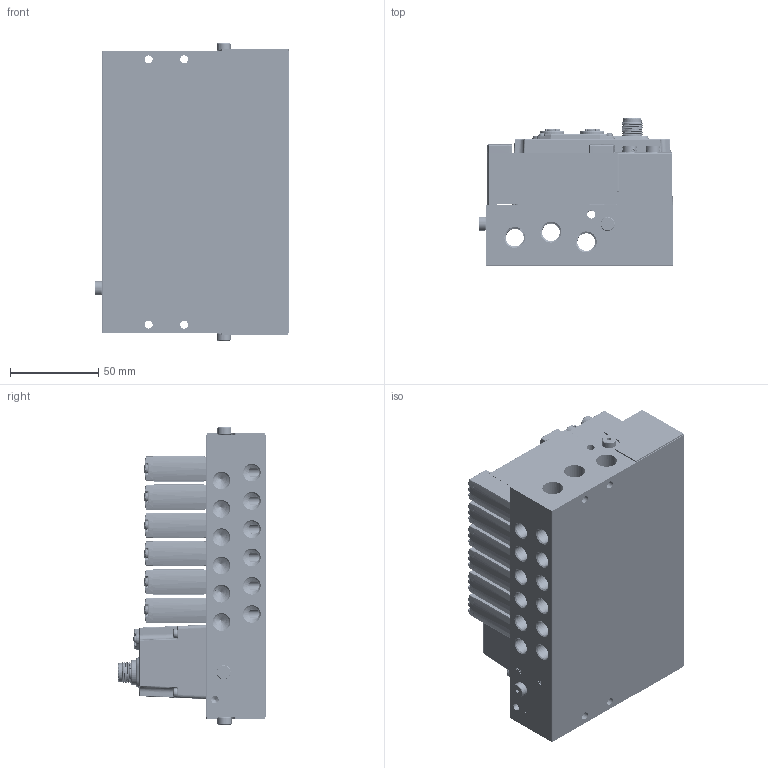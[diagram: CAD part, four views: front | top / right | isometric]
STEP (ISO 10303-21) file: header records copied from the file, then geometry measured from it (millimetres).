
FILE_DESCRIPTION((''),'2;1');
FILE_NAME('C3-L14-W-XBF-06_ASM','2026-06-22T13:33:51',('admin'),(''),'CREO PARAMETRIC BY PTC INC, 2022073','CREO PARAMETRIC BY PTC INC, 2022073','');
FILE_SCHEMA(('CONFIG_CONTROL_DESIGN'));
Products named in the file (49): 202300320_ASM-1_202300349-2-SOL; PRT0002-1-SOLID1; 202300320_ASM-1_202300314_ASM-1; NONE-37999; NONE-40073; PRT0002-1-SOLID2; 202300320_ASM-1_202300355-2-SOL; 202300320_ASM-1_202300327-1-SOL; 202300320_ASM-1_202300318_ASM-1; NONE-76625; 202300320_ASM-1_202300351-1-SOL; 202300320_ASM-1_202300353-2-SOL; PRT0002-1-SOLID4; 202300320_ASM-1_202300349-1-SOL; 202300320_ASM-1_202300351-2-SOL; 202300320_ASM-1_202300144-1-SOL; 202300320_ASM-1_202300353-1-SOL; 202300320_ASM-1_202300355-1-SOL; SURFACE-VGB14_ASM; 0001; C3-L14-W-XBF-06-121466; XBF_0001_ASM; M50001; C3-L14-W-XBF-06-145985_ASM; SURFACE-VGB14_ASM_1_ASM_1_ASM_1; M3X16-2-SOLID10001_1_1_1; M3X16-4-SOLID10001_1_1_1; SH794-1-1-SOLID1_1_1_1_1; SH794-1-1-SOLID1_1_2_1_1; SH794-1-1-SOLID1_1_3_1_1; SH794-1-1-SOLID1_1_ASM_1_ASM_1_ASM; M3X5-1-SOLID10001_1_1_1; M3X16-3-SOLID10001_1_1_1; M12D-2022_11_-70380001_1_1_1; M12D-2022_11_-82260001_1_1_1; M3X16-1-SOLID10001_1_1_1; NONE-196029_1_1_1; SH794-3-1-SOLID1_1_1_1; NONE-215390_1_1_1; M12A5-1-SOLID10001_1_1_1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
Assembly tree (85 placements, depth 9):
  C3-L14-W-XBF-06_ASM
    C3-L14-W-XBF-06-145985_ASM
      SURFACE-VGB14_ASM  x6
        202300320_ASM-1_202300349-2-SOL
        PRT0002-1-SOLID1
        202300320_ASM-1_202300314_ASM-1
        NONE-37999
        NONE-40073
        PRT0002-1-SOLID2
        202300320_ASM-1_202300355-2-SOL
        202300320_ASM-1_202300327-1-SOL
        202300320_ASM-1_202300318_ASM-1
        NONE-76625
        202300320_ASM-1_202300351-1-SOL
        202300320_ASM-1_202300353-2-SOL
        PRT0002-1-SOLID4
        202300320_ASM-1_202300349-1-SOL
        202300320_ASM-1_202300351-2-SOL
        202300320_ASM-1_202300144-1-SOL
        202300320_ASM-1_202300353-1-SOL
        202300320_ASM-1_202300355-1-SOL
      0001  x2
      C3-L14-W-XBF-06-121466
      XBF_0001_ASM
      M50001  x3
    C3EC_ASM
      C3-L14-W-XBF-24_ASM_ASM_1_ASM
        C3-L14-W-XBF-24_ASM_ASM_1_ASM_1_ASM
          C3-L14-W-XBF-24_ASM_1_ASM_1_ASM_ASM
            C3-L14-W-XBF-24-210887_ASM_1_AS_ASM
              SURFACE-VGB14_ASM_1_ASM_1_ASM_1  x24
              XBF_0001_ASM_1_ASM_1_ASM_1_ASM
                M3X16-2-SOLID10001_1_1_1
                M3X16-4-SOLID10001_1_1_1
                SH794-1-1-SOLID1_1_ASM_1_ASM_1_ASM
                  SH794-1-1-SOLID1_1_1_1_1
                  SH794-1-1-SOLID1_1_2_1_1
                  SH794-1-1-SOLID1_1_3_1_1
                M3X5-1-SOLID10001_1_1_1  x2
                M3X16-3-SOLID10001_1_1_1
                M12D-2022_11_-70380001_1_1_1
                M12D-2022_11_-82260001_1_1_1
                M3X16-1-SOLID10001_1_1_1
                NONE-196029_1_1_1
                SH794-3-1-SOLID1_1_1_1
                NONE-215390_1_1_1
                M12A5-1-SOLID10001_1_1_1
            _06--1-SOLID30001_1_1_1  x6
            IP_COVER_1_1_1
Bounding box: 110 x 83.3 x 168 mm (x, y, z)
Volume: 679432.3 mm3; surface area: 255882.7 mm2
Topology: 136 solids, 180 shells, 10769 faces, 27700 edges, 16439 vertices
Faces by surface type: cylinder 3700, plane 2853, torus 1145, bspline 1098, cone 1049, sphere 839, extrusion 85
Entity records: 162295 total; most frequent: CARTESIAN_POINT 60941, DIRECTION 21136, ORIENTED_EDGE 21064, EDGE_CURVE 10540, AXIS2_PLACEMENT_3D 8223, VERTEX_POINT 6769, VECTOR 4690, EDGE_LOOP 4619
